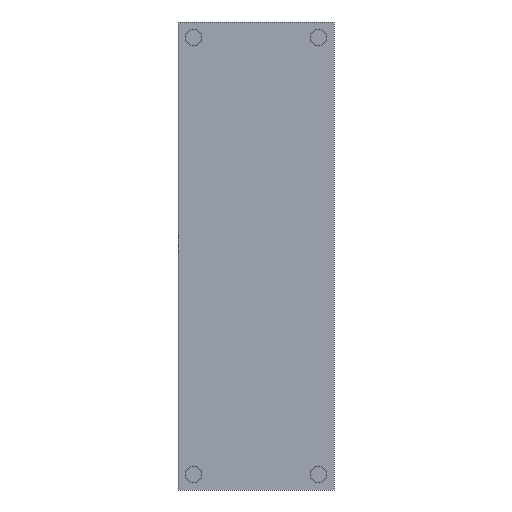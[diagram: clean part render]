
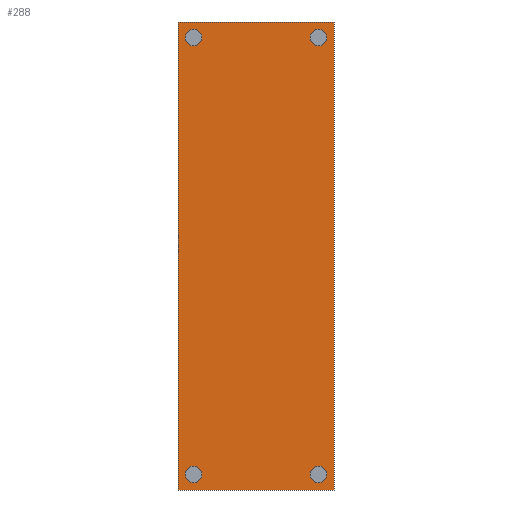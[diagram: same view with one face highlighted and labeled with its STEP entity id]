
A CAD part, front view. The second image highlights one B-rep face of the part: STEP entity #288.
In plain terms, the highlighted planar face has unit normal (0, -1, 0).
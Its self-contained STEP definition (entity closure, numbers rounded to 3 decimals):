
#1=CARTESIAN_POINT('',(12.,0.,42.));
#2=DIRECTION('',(0.,1.,0.));
#3=DIRECTION('',(-1.,0.,0.));
#4=AXIS2_PLACEMENT_3D('',#1,#2,#3);
#6=CARTESIAN_POINT('',(12.,0.,42.));
#7=DIRECTION('',(0.,1.,0.));
#8=DIRECTION('',(1.,0.,0.));
#9=AXIS2_PLACEMENT_3D('',#6,#7,#8);
#11=CARTESIAN_POINT('',(-12.,0.,42.));
#12=DIRECTION('',(0.,-1.,0.));
#13=DIRECTION('',(1.,0.,0.));
#14=AXIS2_PLACEMENT_3D('',#11,#12,#13);
#16=CARTESIAN_POINT('',(-12.,0.,42.));
#17=DIRECTION('',(0.,-1.,0.));
#18=DIRECTION('',(-1.,0.,0.));
#19=AXIS2_PLACEMENT_3D('',#16,#17,#18);
#21=CARTESIAN_POINT('',(-12.,0.,-42.));
#22=DIRECTION('',(0.,1.,0.));
#23=DIRECTION('',(1.,0.,0.));
#24=AXIS2_PLACEMENT_3D('',#21,#22,#23);
#26=CARTESIAN_POINT('',(-12.,0.,-42.));
#27=DIRECTION('',(0.,1.,0.));
#28=DIRECTION('',(-1.,0.,0.));
#29=AXIS2_PLACEMENT_3D('',#26,#27,#28);
#31=CARTESIAN_POINT('',(12.,0.,-42.));
#32=DIRECTION('',(0.,-1.,0.));
#33=DIRECTION('',(-1.,0.,0.));
#34=AXIS2_PLACEMENT_3D('',#31,#32,#33);
#36=CARTESIAN_POINT('',(12.,0.,-42.));
#37=DIRECTION('',(0.,-1.,0.));
#38=DIRECTION('',(1.,0.,0.));
#39=AXIS2_PLACEMENT_3D('',#36,#37,#38);
#131=CARTESIAN_POINT('',(-15.,0.,45.));
#133=DIRECTION('',(0.,0.,-1.));
#134=VECTOR('',#133,90.);
#135=CARTESIAN_POINT('',(-15.,0.,45.));
#136=LINE('',#135,#134);
#151=CARTESIAN_POINT('',(-15.,0.,-45.));
#153=DIRECTION('',(0.,0.,1.));
#154=VECTOR('',#153,90.);
#155=CARTESIAN_POINT('',(15.,0.,-45.));
#156=LINE('',#155,#154);
#171=CARTESIAN_POINT('',(15.,0.,45.));
#191=CARTESIAN_POINT('',(15.,0.,-45.));
#197=DIRECTION('',(1.,0.,0.));
#198=VECTOR('',#197,30.);
#199=CARTESIAN_POINT('',(-15.,0.,45.));
#200=LINE('',#199,#198);
#205=DIRECTION('',(1.,0.,0.));
#206=VECTOR('',#205,30.);
#207=CARTESIAN_POINT('',(-15.,0.,-45.));
#208=LINE('',#207,#206);
#210=VERTEX_POINT('',#191);
#215=CARTESIAN_POINT('',(10.4,0.,-42.));
#216=CARTESIAN_POINT('',(13.6,0.,-42.));
#217=VERTEX_POINT('',#215);
#218=VERTEX_POINT('',#216);
#220=VERTEX_POINT('',#151);
#225=CARTESIAN_POINT('',(-10.4,0.,-42.));
#226=CARTESIAN_POINT('',(-13.6,0.,-42.));
#227=VERTEX_POINT('',#225);
#228=VERTEX_POINT('',#226);
#230=VERTEX_POINT('',#171);
#235=CARTESIAN_POINT('',(10.4,0.,42.));
#236=CARTESIAN_POINT('',(13.6,0.,42.));
#237=VERTEX_POINT('',#235);
#238=VERTEX_POINT('',#236);
#240=VERTEX_POINT('',#131);
#245=CARTESIAN_POINT('',(-10.4,0.,42.));
#246=CARTESIAN_POINT('',(-13.6,0.,42.));
#247=VERTEX_POINT('',#245);
#248=VERTEX_POINT('',#246);
#249=CARTESIAN_POINT('',(0.,0.,0.));
#250=DIRECTION('',(0.,1.,0.));
#251=DIRECTION('',(1.,0.,0.));
#252=AXIS2_PLACEMENT_3D('',#249,#250,#251);
#253=PLANE('',#252);
#255=ORIENTED_EDGE('',*,*,#254,.F.);
#257=ORIENTED_EDGE('',*,*,#256,.T.);
#259=ORIENTED_EDGE('',*,*,#258,.F.);
#261=ORIENTED_EDGE('',*,*,#260,.F.);
#262=EDGE_LOOP('',(#255,#257,#259,#261));
#263=FACE_OUTER_BOUND('',#262,.F.);
#265=ORIENTED_EDGE('',*,*,#264,.F.);
#267=ORIENTED_EDGE('',*,*,#266,.F.);
#268=EDGE_LOOP('',(#265,#267));
#269=FACE_BOUND('',#268,.F.);
#271=ORIENTED_EDGE('',*,*,#270,.T.);
#273=ORIENTED_EDGE('',*,*,#272,.T.);
#274=EDGE_LOOP('',(#271,#273));
#275=FACE_BOUND('',#274,.F.);
#277=ORIENTED_EDGE('',*,*,#276,.F.);
#279=ORIENTED_EDGE('',*,*,#278,.F.);
#280=EDGE_LOOP('',(#277,#279));
#281=FACE_BOUND('',#280,.F.);
#283=ORIENTED_EDGE('',*,*,#282,.T.);
#285=ORIENTED_EDGE('',*,*,#284,.T.);
#286=EDGE_LOOP('',(#283,#285));
#287=FACE_BOUND('',#286,.F.);
#288=ADVANCED_FACE('',(#263,#269,#275,#281,#287),#253,.F.);
#5=CIRCLE('',#4,1.6);
#10=CIRCLE('',#9,1.6);
#15=CIRCLE('',#14,1.6);
#20=CIRCLE('',#19,1.6);
#25=CIRCLE('',#24,1.6);
#30=CIRCLE('',#29,1.6);
#35=CIRCLE('',#34,1.6);
#40=CIRCLE('',#39,1.6);
#254=EDGE_CURVE('',#240,#220,#136,.T.);
#256=EDGE_CURVE('',#240,#230,#200,.T.);
#258=EDGE_CURVE('',#210,#230,#156,.T.);
#260=EDGE_CURVE('',#220,#210,#208,.T.);
#264=EDGE_CURVE('',#237,#238,#5,.T.);
#266=EDGE_CURVE('',#238,#237,#10,.T.);
#270=EDGE_CURVE('',#247,#248,#15,.T.);
#272=EDGE_CURVE('',#248,#247,#20,.T.);
#276=EDGE_CURVE('',#227,#228,#25,.T.);
#278=EDGE_CURVE('',#228,#227,#30,.T.);
#282=EDGE_CURVE('',#217,#218,#35,.T.);
#284=EDGE_CURVE('',#218,#217,#40,.T.);
